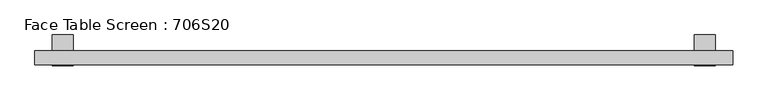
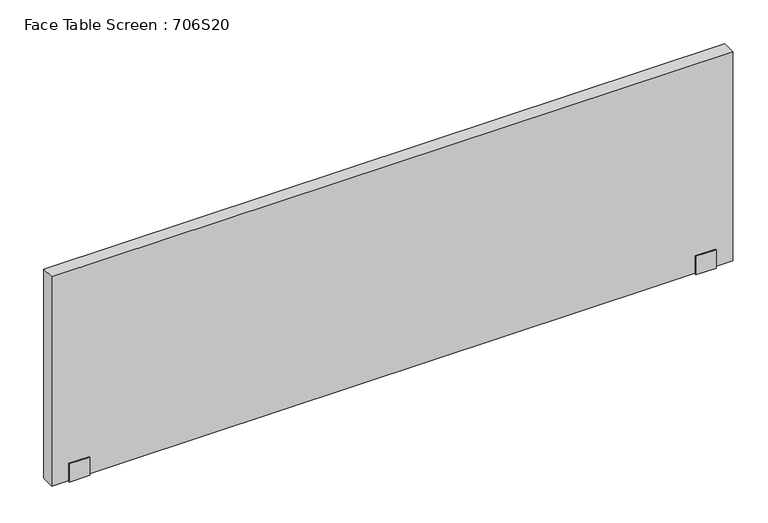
"""IFC4 building model written with IfcOpenShell, lengths in millimetres: furniture geometry, Face Table Screen : 706S20."""

from ifc_helpers import new_model, si_unit, frame, origin, place, context, project, spatial, polyline, outline, extrude, source, transform, mapped, element, save


def face_table_screen_706s20_2f652c50(model_context):
    return source(origin(), model_context, "Body", "SweptSolid", [
        extrude(outline(polyline([(-22.9999947, -256.0), (-22.9999997, -199.0433898), (-20.0, -199.0433898), (-20.0, -253.0), (20.0, -253.0), (20.0, -22.0), (65.0, -22.0), (65.0, -25.0433898), (23.0000062, -25.0433898), (22.9999947, -256.0), (-22.9999947, -256.0)])), frame((890.0, 0.0, 0.0), z_axis=(1.0, 0.0, 0.0), x_axis=(0.0, 1.0, 0.0)), (0.0, 0.0, 1.0), 60.0),
        extrude(outline(polyline([(-22.9999947, -256.0), (-22.9999997, -199.0433898), (-20.0, -199.0433898), (-20.0, -253.0), (20.0, -253.0), (20.0, -22.0), (65.0, -22.0), (65.0, -25.0433898), (23.0000062, -25.0433898), (22.9999947, -256.0), (-22.9999947, -256.0)])), frame((-950.0, 0.0, 0.0), z_axis=(1.0, 0.0, 0.0), x_axis=(0.0, 1.0, 0.0)), (0.0, 0.0, 1.0), 60.0),
        extrude(outline(polyline([(1000.0, -20.0), (-1000.0, -20.0), (-1000.0, 20.0), (1000.0, 20.0), (1000.0, -20.0)])), frame((0.0, 0.0, -253.0), z_axis=(0.0, 0.0, 1.0), x_axis=(1.0, 0.0, 0.0)), (0.0, 0.0, 1.0), 650.0),
    ])


if __name__ == "__main__":
    model = new_model("IFC4")
    model_context = context("Model", 3, world=origin())
    ifc_project = project(units=[si_unit("LENGTHUNIT", "METRE", prefix="MILLI")], contexts=[model_context])
    site = spatial("IfcSite", under=ifc_project)
    building = spatial("IfcBuilding", under=site)
    placement = place(None, origin())
    face_table_screen_706s20_shape = face_table_screen_706s20_2f652c50(model_context)
    element("IfcFurniture", 1, ObjectType="Face Table Screen : 706S20", at=placement, inside=building, context=model_context, shape_type="MappedRepresentation", body=[
        mapped(face_table_screen_706s20_shape, transform((0.0, 0.0, 0.0), x_axis=(1.0, 0.0, 0.0), y_axis=(0.0, 1.0, 0.0), z_axis=(0.0, 0.0, 1.0))),
    ])
    save(model, "model.ifc")
